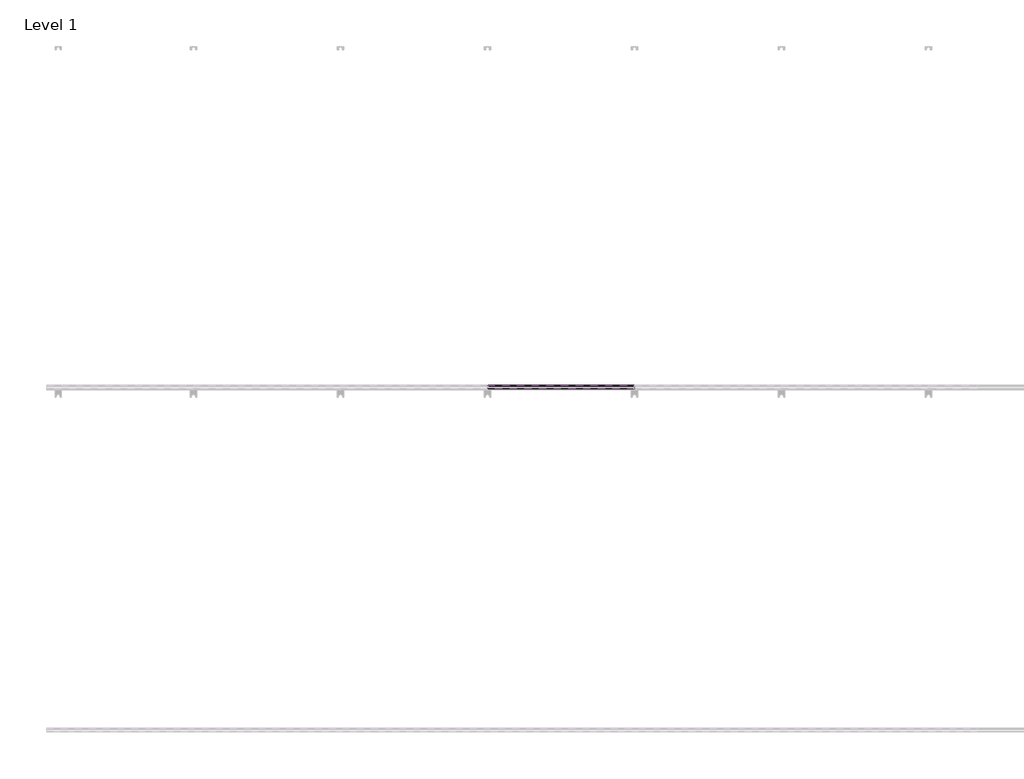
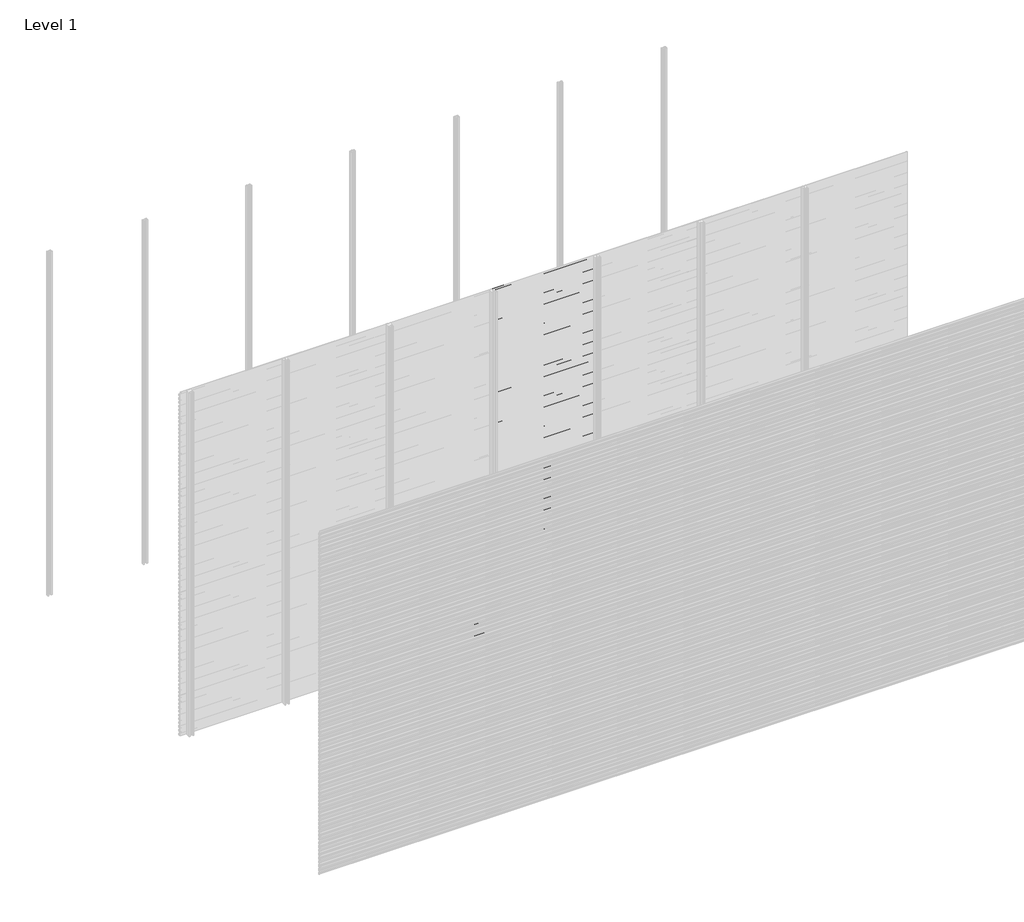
# One storey, part 74 of 96: 76 proxies.
"""IFC4 building model written with IfcOpenShell, lengths in millimetres."""

from ifc_helpers import new_model, si_unit, frame, origin, place, context, project, spatial, polyline, outline, extrude, element, save

model = new_model("IFC4")

# Units and contexts
model_context = context("Model", 3, world=origin())
ifc_project = project(units=[si_unit("LENGTHUNIT", "METRE", prefix="MILLI")], contexts=[model_context])

# Site, building, storey
site = spatial("IfcSite", under=ifc_project)
building = spatial("IfcBuilding", under=site)
storey = spatial("IfcBuildingStorey", under=building, Name="Level 1", Elevation=0.0)

# Proxies
placement = place(None, origin())
element("IfcBuildingElementProxy", 1, Name="Wall Sweeps", at=placement, inside=storey, context=model_context, shape_type="SweptSolid", body=[
    extrude(outline(polyline([(-11977.6, 174.5655033), (-11977.6, 160.2779188), (-11982.4114965, 157.5), (-11982.4114965, 158.7701706), (-11978.85, 160.8264016), (-11978.85, 173.8437382), (-11998.0, 184.9000799), (-11998.0, 199.8), (-11996.75, 199.8), (-11996.75, 185.6217609), (-11977.6, 174.5655033)])), frame((1714.2857143, 0.0, 0.0), z_axis=(1.0, 0.0, 0.0), x_axis=(0.0, 1.0, 0.0)), (0.0, 0.0, 1.0), 857.1428571),
])
element("IfcBuildingElementProxy", 2, Name="Wall Sweeps", at=placement, inside=storey, context=model_context, shape_type="SweptSolid", body=[
    extrude(outline(polyline([(-11977.6, 141.2655033), (-11977.6, 126.9779188), (-11982.4114965, 124.2), (-11982.4114965, 125.4701706), (-11978.85, 127.5264016), (-11978.85, 140.5437382), (-11998.0, 151.6000799), (-11998.0, 166.5), (-11996.75, 166.5), (-11996.75, 152.3217609), (-11977.6, 141.2655033)])), frame((1714.2857143, 0.0, 0.0), z_axis=(1.0, 0.0, 0.0), x_axis=(0.0, 1.0, 0.0)), (0.0, 0.0, 1.0), 857.1428571),
])
element("IfcBuildingElementProxy", 3, Name="Wall Sweeps", at=placement, inside=storey, context=model_context, shape_type="SweptSolid", body=[
    extrude(outline(polyline([(-11977.6, 107.9655033), (-11977.6, 93.6779188), (-11982.4114965, 90.9), (-11982.4114965, 92.1701706), (-11978.85, 94.2264016), (-11978.85, 107.2437382), (-11998.0, 118.3000799), (-11998.0, 133.2), (-11996.75, 133.2), (-11996.75, 119.0217609), (-11977.6, 107.9655033)])), frame((1714.2857143, 0.0, 0.0), z_axis=(1.0, 0.0, 0.0), x_axis=(0.0, 1.0, 0.0)), (0.0, 0.0, 1.0), 857.1428571),
])
element("IfcBuildingElementProxy", 4, Name="Wall Sweeps", at=placement, inside=storey, context=model_context, shape_type="SweptSolid", body=[
    extrude(outline(polyline([(-11977.6, 74.6655033), (-11977.6, 60.3779188), (-11982.4114965, 57.6), (-11982.4114965, 58.8701706), (-11978.85, 60.9264016), (-11978.85, 73.9437382), (-11998.0, 85.0000799), (-11998.0, 99.9), (-11996.75, 99.9), (-11996.75, 85.7217609), (-11977.6, 74.6655033)])), frame((1714.2857143, 0.0, 0.0), z_axis=(1.0, 0.0, 0.0), x_axis=(0.0, 1.0, 0.0)), (0.0, 0.0, 1.0), 857.1428571),
])
element("IfcBuildingElementProxy", 5, Name="Wall Sweeps", at=placement, inside=storey, context=model_context, shape_type="SweptSolid", body=[
    extrude(outline(polyline([(-11977.6, 41.3655033), (-11977.6, 27.0779188), (-11982.4114965, 24.3), (-11982.4114965, 25.5701706), (-11978.85, 27.6264016), (-11978.85, 40.6437382), (-11998.0, 51.7000799), (-11998.0, 66.6), (-11996.75, 66.6), (-11996.75, 52.4217609), (-11977.6, 41.3655033)])), frame((1714.2857143, 0.0, 0.0), z_axis=(1.0, 0.0, 0.0), x_axis=(0.0, 1.0, 0.0)), (0.0, 0.0, 1.0), 857.1428571),
])
element("IfcBuildingElementProxy", 6, Name="Wall Sweeps", at=placement, inside=storey, context=model_context, shape_type="SweptSolid", body=[
    extrude(outline(polyline([(-11977.6, 8.0655033), (-11977.6, -6.2220812), (-11982.4114965, -9.0), (-11982.4114965, -7.7298294), (-11978.85, -5.6735984), (-11978.85, 7.3437382), (-11998.0, 18.4000799), (-11998.0, 33.3), (-11996.75, 33.3), (-11996.75, 19.1217609), (-11977.6, 8.0655033)])), frame((1714.2857143, 0.0, 0.0), z_axis=(1.0, 0.0, 0.0), x_axis=(0.0, 1.0, 0.0)), (0.0, 0.0, 1.0), 857.1428571),
])
element("IfcBuildingElementProxy", 7, Name="Wall Sweeps", at=placement, inside=storey, context=model_context, shape_type="SweptSolid", body=[
    extrude(outline(polyline([(-11977.6, 2971.7655033), (-11977.6, 2957.4779188), (-11982.4114965, 2954.7), (-11982.4114965, 2955.9701706), (-11978.85, 2958.0264016), (-11978.85, 2971.0437382), (-11998.0, 2982.1000799), (-11998.0, 2997.0), (-11996.75, 2997.0), (-11996.75, 2982.8217609), (-11977.6, 2971.7655033)])), frame((2571.4285714, 0.0, 0.0), z_axis=(1.0, 0.0, 0.0), x_axis=(0.0, 1.0, 0.0)), (0.0, 0.0, 1.0), 857.1428571),
])
element("IfcBuildingElementProxy", 8, Name="Wall Sweeps", at=placement, inside=storey, context=model_context, shape_type="SweptSolid", body=[
    extrude(outline(polyline([(-11977.6, 2938.4655033), (-11977.6, 2924.1779188), (-11982.4114965, 2921.4), (-11982.4114965, 2922.6701706), (-11978.85, 2924.7264016), (-11978.85, 2937.7437382), (-11998.0, 2948.8000799), (-11998.0, 2963.7), (-11996.75, 2963.7), (-11996.75, 2949.5217609), (-11977.6, 2938.4655033)])), frame((2571.4285714, 0.0, 0.0), z_axis=(1.0, 0.0, 0.0), x_axis=(0.0, 1.0, 0.0)), (0.0, 0.0, 1.0), 857.1428571),
])
element("IfcBuildingElementProxy", 9, Name="Wall Sweeps", at=placement, inside=storey, context=model_context, shape_type="SweptSolid", body=[
    extrude(outline(polyline([(-11977.6, 2905.1655033), (-11977.6, 2890.8779188), (-11982.4114965, 2888.1), (-11982.4114965, 2889.3701706), (-11978.85, 2891.4264016), (-11978.85, 2904.4437382), (-11998.0, 2915.5000799), (-11998.0, 2930.4), (-11996.75, 2930.4), (-11996.75, 2916.2217609), (-11977.6, 2905.1655033)])), frame((2571.4285714, 0.0, 0.0), z_axis=(1.0, 0.0, 0.0), x_axis=(0.0, 1.0, 0.0)), (0.0, 0.0, 1.0), 857.1428571),
])
element("IfcBuildingElementProxy", 10, Name="Wall Sweeps", at=placement, inside=storey, context=model_context, shape_type="SweptSolid", body=[
    extrude(outline(polyline([(-11977.6, 2871.8655033), (-11977.6, 2857.5779188), (-11982.4114965, 2854.8), (-11982.4114965, 2856.0701706), (-11978.85, 2858.1264016), (-11978.85, 2871.1437382), (-11998.0, 2882.2000799), (-11998.0, 2897.1), (-11996.75, 2897.1), (-11996.75, 2882.9217609), (-11977.6, 2871.8655033)])), frame((2571.4285714, 0.0, 0.0), z_axis=(1.0, 0.0, 0.0), x_axis=(0.0, 1.0, 0.0)), (0.0, 0.0, 1.0), 857.1428571),
])
element("IfcBuildingElementProxy", 11, Name="Wall Sweeps", at=placement, inside=storey, context=model_context, shape_type="SweptSolid", body=[
    extrude(outline(polyline([(-11977.6, 2838.5655033), (-11977.6, 2824.2779188), (-11982.4114965, 2821.5), (-11982.4114965, 2822.7701706), (-11978.85, 2824.8264016), (-11978.85, 2837.8437382), (-11998.0, 2848.9000799), (-11998.0, 2863.8), (-11996.75, 2863.8), (-11996.75, 2849.6217609), (-11977.6, 2838.5655033)])), frame((2571.4285714, 0.0, 0.0), z_axis=(1.0, 0.0, 0.0), x_axis=(0.0, 1.0, 0.0)), (0.0, 0.0, 1.0), 857.1428571),
])
element("IfcBuildingElementProxy", 12, Name="Wall Sweeps", at=placement, inside=storey, context=model_context, shape_type="SweptSolid", body=[
    extrude(outline(polyline([(-11977.6, 2805.2655033), (-11977.6, 2790.9779188), (-11982.4114965, 2788.2), (-11982.4114965, 2789.4701706), (-11978.85, 2791.5264016), (-11978.85, 2804.5437382), (-11998.0, 2815.6000799), (-11998.0, 2830.5), (-11996.75, 2830.5), (-11996.75, 2816.3217609), (-11977.6, 2805.2655033)])), frame((2571.4285714, 0.0, 0.0), z_axis=(1.0, 0.0, 0.0), x_axis=(0.0, 1.0, 0.0)), (0.0, 0.0, 1.0), 857.1428571),
])
element("IfcBuildingElementProxy", 13, Name="Wall Sweeps", at=placement, inside=storey, context=model_context, shape_type="SweptSolid", body=[
    extrude(outline(polyline([(-11977.6, 2771.9655033), (-11977.6, 2757.6779188), (-11982.4114965, 2754.9), (-11982.4114965, 2756.1701706), (-11978.85, 2758.2264016), (-11978.85, 2771.2437382), (-11998.0, 2782.3000799), (-11998.0, 2797.2), (-11996.75, 2797.2), (-11996.75, 2783.0217609), (-11977.6, 2771.9655033)])), frame((2571.4285714, 0.0, 0.0), z_axis=(1.0, 0.0, 0.0), x_axis=(0.0, 1.0, 0.0)), (0.0, 0.0, 1.0), 857.1428571),
])
element("IfcBuildingElementProxy", 14, Name="Wall Sweeps", at=placement, inside=storey, context=model_context, shape_type="SweptSolid", body=[
    extrude(outline(polyline([(-11977.6, 2738.6655033), (-11977.6, 2724.3779188), (-11982.4114965, 2721.6), (-11982.4114965, 2722.8701706), (-11978.85, 2724.9264016), (-11978.85, 2737.9437382), (-11998.0, 2749.0000799), (-11998.0, 2763.9), (-11996.75, 2763.9), (-11996.75, 2749.7217609), (-11977.6, 2738.6655033)])), frame((2571.4285714, 0.0, 0.0), z_axis=(1.0, 0.0, 0.0), x_axis=(0.0, 1.0, 0.0)), (0.0, 0.0, 1.0), 857.1428571),
])
element("IfcBuildingElementProxy", 15, Name="Wall Sweeps", at=placement, inside=storey, context=model_context, shape_type="SweptSolid", body=[
    extrude(outline(polyline([(-11977.6, 2705.3655033), (-11977.6, 2691.0779188), (-11982.4114965, 2688.3), (-11982.4114965, 2689.5701706), (-11978.85, 2691.6264016), (-11978.85, 2704.6437382), (-11998.0, 2715.7000799), (-11998.0, 2730.6), (-11996.75, 2730.6), (-11996.75, 2716.4217609), (-11977.6, 2705.3655033)])), frame((2571.4285714, 0.0, 0.0), z_axis=(1.0, 0.0, 0.0), x_axis=(0.0, 1.0, 0.0)), (0.0, 0.0, 1.0), 857.1428571),
])
element("IfcBuildingElementProxy", 16, Name="Wall Sweeps", at=placement, inside=storey, context=model_context, shape_type="SweptSolid", body=[
    extrude(outline(polyline([(-11977.6, 2672.0655033), (-11977.6, 2657.7779188), (-11982.4114965, 2655.0), (-11982.4114965, 2656.2701706), (-11978.85, 2658.3264016), (-11978.85, 2671.3437382), (-11998.0, 2682.4000799), (-11998.0, 2697.3), (-11996.75, 2697.3), (-11996.75, 2683.1217609), (-11977.6, 2672.0655033)])), frame((2571.4285714, 0.0, 0.0), z_axis=(1.0, 0.0, 0.0), x_axis=(0.0, 1.0, 0.0)), (0.0, 0.0, 1.0), 857.1428571),
])
element("IfcBuildingElementProxy", 17, Name="Wall Sweeps", at=placement, inside=storey, context=model_context, shape_type="SweptSolid", body=[
    extrude(outline(polyline([(-11977.6, 2638.7655033), (-11977.6, 2624.4779188), (-11982.4114965, 2621.7), (-11982.4114965, 2622.9701706), (-11978.85, 2625.0264016), (-11978.85, 2638.0437382), (-11998.0, 2649.1000799), (-11998.0, 2664.0), (-11996.75, 2664.0), (-11996.75, 2649.8217609), (-11977.6, 2638.7655033)])), frame((2571.4285714, 0.0, 0.0), z_axis=(1.0, 0.0, 0.0), x_axis=(0.0, 1.0, 0.0)), (0.0, 0.0, 1.0), 857.1428571),
])
element("IfcBuildingElementProxy", 18, Name="Wall Sweeps", at=placement, inside=storey, context=model_context, shape_type="SweptSolid", body=[
    extrude(outline(polyline([(-11977.6, 2605.4655033), (-11977.6, 2591.1779188), (-11982.4114965, 2588.4), (-11982.4114965, 2589.6701706), (-11978.85, 2591.7264016), (-11978.85, 2604.7437382), (-11998.0, 2615.8000799), (-11998.0, 2630.7), (-11996.75, 2630.7), (-11996.75, 2616.5217609), (-11977.6, 2605.4655033)])), frame((2571.4285714, 0.0, 0.0), z_axis=(1.0, 0.0, 0.0), x_axis=(0.0, 1.0, 0.0)), (0.0, 0.0, 1.0), 857.1428571),
])
element("IfcBuildingElementProxy", 19, Name="Wall Sweeps", at=placement, inside=storey, context=model_context, shape_type="SweptSolid", body=[
    extrude(outline(polyline([(-11977.6, 2572.1655033), (-11977.6, 2557.8779188), (-11982.4114965, 2555.1), (-11982.4114965, 2556.3701706), (-11978.85, 2558.4264016), (-11978.85, 2571.4437382), (-11998.0, 2582.5000799), (-11998.0, 2597.4), (-11996.75, 2597.4), (-11996.75, 2583.2217609), (-11977.6, 2572.1655033)])), frame((2571.4285714, 0.0, 0.0), z_axis=(1.0, 0.0, 0.0), x_axis=(0.0, 1.0, 0.0)), (0.0, 0.0, 1.0), 857.1428571),
])
element("IfcBuildingElementProxy", 20, Name="Wall Sweeps", at=placement, inside=storey, context=model_context, shape_type="SweptSolid", body=[
    extrude(outline(polyline([(-11977.6, 2538.8655033), (-11977.6, 2524.5779188), (-11982.4114965, 2521.8), (-11982.4114965, 2523.0701706), (-11978.85, 2525.1264016), (-11978.85, 2538.1437382), (-11998.0, 2549.2000799), (-11998.0, 2564.1), (-11996.75, 2564.1), (-11996.75, 2549.9217609), (-11977.6, 2538.8655033)])), frame((2571.4285714, 0.0, 0.0), z_axis=(1.0, 0.0, 0.0), x_axis=(0.0, 1.0, 0.0)), (0.0, 0.0, 1.0), 857.1428571),
])
element("IfcBuildingElementProxy", 21, Name="Wall Sweeps", at=placement, inside=storey, context=model_context, shape_type="SweptSolid", body=[
    extrude(outline(polyline([(-11977.6, 2505.5655033), (-11977.6, 2491.2779188), (-11982.4114965, 2488.5), (-11982.4114965, 2489.7701706), (-11978.85, 2491.8264016), (-11978.85, 2504.8437382), (-11998.0, 2515.9000799), (-11998.0, 2530.8), (-11996.75, 2530.8), (-11996.75, 2516.6217609), (-11977.6, 2505.5655033)])), frame((2571.4285714, 0.0, 0.0), z_axis=(1.0, 0.0, 0.0), x_axis=(0.0, 1.0, 0.0)), (0.0, 0.0, 1.0), 857.1428571),
])
element("IfcBuildingElementProxy", 22, Name="Wall Sweeps", at=placement, inside=storey, context=model_context, shape_type="SweptSolid", body=[
    extrude(outline(polyline([(-11977.6, 2472.2655033), (-11977.6, 2457.9779188), (-11982.4114965, 2455.2), (-11982.4114965, 2456.4701706), (-11978.85, 2458.5264016), (-11978.85, 2471.5437382), (-11998.0, 2482.6000799), (-11998.0, 2497.5), (-11996.75, 2497.5), (-11996.75, 2483.3217609), (-11977.6, 2472.2655033)])), frame((2571.4285714, 0.0, 0.0), z_axis=(1.0, 0.0, 0.0), x_axis=(0.0, 1.0, 0.0)), (0.0, 0.0, 1.0), 857.1428571),
])
element("IfcBuildingElementProxy", 23, Name="Wall Sweeps", at=placement, inside=storey, context=model_context, shape_type="SweptSolid", body=[
    extrude(outline(polyline([(-11977.6, 2438.9655033), (-11977.6, 2424.6779188), (-11982.4114965, 2421.9), (-11982.4114965, 2423.1701706), (-11978.85, 2425.2264016), (-11978.85, 2438.2437382), (-11998.0, 2449.3000799), (-11998.0, 2464.2), (-11996.75, 2464.2), (-11996.75, 2450.0217609), (-11977.6, 2438.9655033)])), frame((2571.4285714, 0.0, 0.0), z_axis=(1.0, 0.0, 0.0), x_axis=(0.0, 1.0, 0.0)), (0.0, 0.0, 1.0), 857.1428571),
])
element("IfcBuildingElementProxy", 24, Name="Wall Sweeps", at=placement, inside=storey, context=model_context, shape_type="SweptSolid", body=[
    extrude(outline(polyline([(-11977.6, 2405.6655033), (-11977.6, 2391.3779188), (-11982.4114965, 2388.6), (-11982.4114965, 2389.8701706), (-11978.85, 2391.9264016), (-11978.85, 2404.9437382), (-11998.0, 2416.0000799), (-11998.0, 2430.9), (-11996.75, 2430.9), (-11996.75, 2416.7217609), (-11977.6, 2405.6655033)])), frame((2571.4285714, 0.0, 0.0), z_axis=(1.0, 0.0, 0.0), x_axis=(0.0, 1.0, 0.0)), (0.0, 0.0, 1.0), 857.1428571),
])
element("IfcBuildingElementProxy", 25, Name="Wall Sweeps", at=placement, inside=storey, context=model_context, shape_type="SweptSolid", body=[
    extrude(outline(polyline([(-11977.6, 2372.3655033), (-11977.6, 2358.0779188), (-11982.4114965, 2355.3), (-11982.4114965, 2356.5701706), (-11978.85, 2358.6264016), (-11978.85, 2371.6437382), (-11998.0, 2382.7000799), (-11998.0, 2397.6), (-11996.75, 2397.6), (-11996.75, 2383.4217609), (-11977.6, 2372.3655033)])), frame((2571.4285714, 0.0, 0.0), z_axis=(1.0, 0.0, 0.0), x_axis=(0.0, 1.0, 0.0)), (0.0, 0.0, 1.0), 857.1428571),
])
element("IfcBuildingElementProxy", 26, Name="Wall Sweeps", at=placement, inside=storey, context=model_context, shape_type="SweptSolid", body=[
    extrude(outline(polyline([(-11977.6, 2339.0655033), (-11977.6, 2324.7779188), (-11982.4114965, 2322.0), (-11982.4114965, 2323.2701706), (-11978.85, 2325.3264016), (-11978.85, 2338.3437382), (-11998.0, 2349.4000799), (-11998.0, 2364.3), (-11996.75, 2364.3), (-11996.75, 2350.1217609), (-11977.6, 2339.0655033)])), frame((2571.4285714, 0.0, 0.0), z_axis=(1.0, 0.0, 0.0), x_axis=(0.0, 1.0, 0.0)), (0.0, 0.0, 1.0), 857.1428571),
])
element("IfcBuildingElementProxy", 27, Name="Wall Sweeps", at=placement, inside=storey, context=model_context, shape_type="SweptSolid", body=[
    extrude(outline(polyline([(-11977.6, 2305.7655033), (-11977.6, 2291.4779188), (-11982.4114965, 2288.7), (-11982.4114965, 2289.9701706), (-11978.85, 2292.0264016), (-11978.85, 2305.0437382), (-11998.0, 2316.1000799), (-11998.0, 2331.0), (-11996.75, 2331.0), (-11996.75, 2316.8217609), (-11977.6, 2305.7655033)])), frame((2571.4285714, 0.0, 0.0), z_axis=(1.0, 0.0, 0.0), x_axis=(0.0, 1.0, 0.0)), (0.0, 0.0, 1.0), 857.1428571),
])
element("IfcBuildingElementProxy", 28, Name="Wall Sweeps", at=placement, inside=storey, context=model_context, shape_type="SweptSolid", body=[
    extrude(outline(polyline([(-11977.6, 2272.4655033), (-11977.6, 2258.1779188), (-11982.4114965, 2255.4), (-11982.4114965, 2256.6701706), (-11978.85, 2258.7264016), (-11978.85, 2271.7437382), (-11998.0, 2282.8000799), (-11998.0, 2297.7), (-11996.75, 2297.7), (-11996.75, 2283.5217609), (-11977.6, 2272.4655033)])), frame((2571.4285714, 0.0, 0.0), z_axis=(1.0, 0.0, 0.0), x_axis=(0.0, 1.0, 0.0)), (0.0, 0.0, 1.0), 857.1428571),
])
element("IfcBuildingElementProxy", 29, Name="Wall Sweeps", at=placement, inside=storey, context=model_context, shape_type="SweptSolid", body=[
    extrude(outline(polyline([(-11977.6, 2239.1655033), (-11977.6, 2224.8779188), (-11982.4114965, 2222.1), (-11982.4114965, 2223.3701706), (-11978.85, 2225.4264016), (-11978.85, 2238.4437382), (-11998.0, 2249.5000799), (-11998.0, 2264.4), (-11996.75, 2264.4), (-11996.75, 2250.2217609), (-11977.6, 2239.1655033)])), frame((2571.4285714, 0.0, 0.0), z_axis=(1.0, 0.0, 0.0), x_axis=(0.0, 1.0, 0.0)), (0.0, 0.0, 1.0), 857.1428571),
])
element("IfcBuildingElementProxy", 30, Name="Wall Sweeps", at=placement, inside=storey, context=model_context, shape_type="SweptSolid", body=[
    extrude(outline(polyline([(-11977.6, 2205.8655033), (-11977.6, 2191.5779188), (-11982.4114965, 2188.8), (-11982.4114965, 2190.0701706), (-11978.85, 2192.1264016), (-11978.85, 2205.1437382), (-11998.0, 2216.2000799), (-11998.0, 2231.1), (-11996.75, 2231.1), (-11996.75, 2216.9217609), (-11977.6, 2205.8655033)])), frame((2571.4285714, 0.0, 0.0), z_axis=(1.0, 0.0, 0.0), x_axis=(0.0, 1.0, 0.0)), (0.0, 0.0, 1.0), 857.1428571),
])
element("IfcBuildingElementProxy", 31, Name="Wall Sweeps", at=placement, inside=storey, context=model_context, shape_type="SweptSolid", body=[
    extrude(outline(polyline([(-11977.6, 2172.5655033), (-11977.6, 2158.2779188), (-11982.4114965, 2155.5), (-11982.4114965, 2156.7701706), (-11978.85, 2158.8264016), (-11978.85, 2171.8437382), (-11998.0, 2182.9000799), (-11998.0, 2197.8), (-11996.75, 2197.8), (-11996.75, 2183.6217609), (-11977.6, 2172.5655033)])), frame((2571.4285714, 0.0, 0.0), z_axis=(1.0, 0.0, 0.0), x_axis=(0.0, 1.0, 0.0)), (0.0, 0.0, 1.0), 857.1428571),
])
element("IfcBuildingElementProxy", 32, Name="Wall Sweeps", at=placement, inside=storey, context=model_context, shape_type="SweptSolid", body=[
    extrude(outline(polyline([(-11977.6, 2139.2655033), (-11977.6, 2124.9779188), (-11982.4114965, 2122.2), (-11982.4114965, 2123.4701706), (-11978.85, 2125.5264016), (-11978.85, 2138.5437382), (-11998.0, 2149.6000799), (-11998.0, 2164.5), (-11996.75, 2164.5), (-11996.75, 2150.3217609), (-11977.6, 2139.2655033)])), frame((2571.4285714, 0.0, 0.0), z_axis=(1.0, 0.0, 0.0), x_axis=(0.0, 1.0, 0.0)), (0.0, 0.0, 1.0), 857.1428571),
])
element("IfcBuildingElementProxy", 33, Name="Wall Sweeps", at=placement, inside=storey, context=model_context, shape_type="SweptSolid", body=[
    extrude(outline(polyline([(-11977.6, 2105.9655033), (-11977.6, 2091.6779188), (-11982.4114965, 2088.9), (-11982.4114965, 2090.1701706), (-11978.85, 2092.2264016), (-11978.85, 2105.2437382), (-11998.0, 2116.3000799), (-11998.0, 2131.2), (-11996.75, 2131.2), (-11996.75, 2117.0217609), (-11977.6, 2105.9655033)])), frame((2571.4285714, 0.0, 0.0), z_axis=(1.0, 0.0, 0.0), x_axis=(0.0, 1.0, 0.0)), (0.0, 0.0, 1.0), 857.1428571),
])
element("IfcBuildingElementProxy", 34, Name="Wall Sweeps", at=placement, inside=storey, context=model_context, shape_type="SweptSolid", body=[
    extrude(outline(polyline([(-11977.6, 2072.6655033), (-11977.6, 2058.3779188), (-11982.4114965, 2055.6), (-11982.4114965, 2056.8701706), (-11978.85, 2058.9264016), (-11978.85, 2071.9437382), (-11998.0, 2083.0000799), (-11998.0, 2097.9), (-11996.75, 2097.9), (-11996.75, 2083.7217609), (-11977.6, 2072.6655033)])), frame((2571.4285714, 0.0, 0.0), z_axis=(1.0, 0.0, 0.0), x_axis=(0.0, 1.0, 0.0)), (0.0, 0.0, 1.0), 857.1428571),
])
element("IfcBuildingElementProxy", 35, Name="Wall Sweeps", at=placement, inside=storey, context=model_context, shape_type="SweptSolid", body=[
    extrude(outline(polyline([(-11977.6, 2039.3655033), (-11977.6, 2025.0779188), (-11982.4114965, 2022.3), (-11982.4114965, 2023.5701706), (-11978.85, 2025.6264016), (-11978.85, 2038.6437382), (-11998.0, 2049.7000799), (-11998.0, 2064.6), (-11996.75, 2064.6), (-11996.75, 2050.4217609), (-11977.6, 2039.3655033)])), frame((2571.4285714, 0.0, 0.0), z_axis=(1.0, 0.0, 0.0), x_axis=(0.0, 1.0, 0.0)), (0.0, 0.0, 1.0), 857.1428571),
])
element("IfcBuildingElementProxy", 36, Name="Wall Sweeps", at=placement, inside=storey, context=model_context, shape_type="SweptSolid", body=[
    extrude(outline(polyline([(-11977.6, 2006.0655033), (-11977.6, 1991.7779188), (-11982.4114965, 1989.0), (-11982.4114965, 1990.2701706), (-11978.85, 1992.3264016), (-11978.85, 2005.3437382), (-11998.0, 2016.4000799), (-11998.0, 2031.3), (-11996.75, 2031.3), (-11996.75, 2017.1217609), (-11977.6, 2006.0655033)])), frame((2571.4285714, 0.0, 0.0), z_axis=(1.0, 0.0, 0.0), x_axis=(0.0, 1.0, 0.0)), (0.0, 0.0, 1.0), 857.1428571),
])
element("IfcBuildingElementProxy", 37, Name="Wall Sweeps", at=placement, inside=storey, context=model_context, shape_type="SweptSolid", body=[
    extrude(outline(polyline([(-11977.6, 1972.7655033), (-11977.6, 1958.4779188), (-11982.4114965, 1955.7), (-11982.4114965, 1956.9701706), (-11978.85, 1959.0264016), (-11978.85, 1972.0437382), (-11998.0, 1983.1000799), (-11998.0, 1998.0), (-11996.75, 1998.0), (-11996.75, 1983.8217609), (-11977.6, 1972.7655033)])), frame((2571.4285714, 0.0, 0.0), z_axis=(1.0, 0.0, 0.0), x_axis=(0.0, 1.0, 0.0)), (0.0, 0.0, 1.0), 857.1428571),
])
element("IfcBuildingElementProxy", 38, Name="Wall Sweeps", at=placement, inside=storey, context=model_context, shape_type="SweptSolid", body=[
    extrude(outline(polyline([(-11977.6, 1939.4655033), (-11977.6, 1925.1779188), (-11982.4114965, 1922.4), (-11982.4114965, 1923.6701706), (-11978.85, 1925.7264016), (-11978.85, 1938.7437382), (-11998.0, 1949.8000799), (-11998.0, 1964.7), (-11996.75, 1964.7), (-11996.75, 1950.5217609), (-11977.6, 1939.4655033)])), frame((2571.4285714, 0.0, 0.0), z_axis=(1.0, 0.0, 0.0), x_axis=(0.0, 1.0, 0.0)), (0.0, 0.0, 1.0), 857.1428571),
])
element("IfcBuildingElementProxy", 39, Name="Wall Sweeps", at=placement, inside=storey, context=model_context, shape_type="SweptSolid", body=[
    extrude(outline(polyline([(-11977.6, 1906.1655033), (-11977.6, 1891.8779188), (-11982.4114965, 1889.1), (-11982.4114965, 1890.3701706), (-11978.85, 1892.4264016), (-11978.85, 1905.4437382), (-11998.0, 1916.5000799), (-11998.0, 1931.4), (-11996.75, 1931.4), (-11996.75, 1917.2217609), (-11977.6, 1906.1655033)])), frame((2571.4285714, 0.0, 0.0), z_axis=(1.0, 0.0, 0.0), x_axis=(0.0, 1.0, 0.0)), (0.0, 0.0, 1.0), 857.1428571),
])
element("IfcBuildingElementProxy", 40, Name="Wall Sweeps", at=placement, inside=storey, context=model_context, shape_type="SweptSolid", body=[
    extrude(outline(polyline([(-11977.6, 1872.8655033), (-11977.6, 1858.5779188), (-11982.4114965, 1855.8), (-11982.4114965, 1857.0701706), (-11978.85, 1859.1264016), (-11978.85, 1872.1437382), (-11998.0, 1883.2000799), (-11998.0, 1898.1), (-11996.75, 1898.1), (-11996.75, 1883.9217609), (-11977.6, 1872.8655033)])), frame((2571.4285714, 0.0, 0.0), z_axis=(1.0, 0.0, 0.0), x_axis=(0.0, 1.0, 0.0)), (0.0, 0.0, 1.0), 857.1428571),
])
element("IfcBuildingElementProxy", 41, Name="Wall Sweeps", at=placement, inside=storey, context=model_context, shape_type="SweptSolid", body=[
    extrude(outline(polyline([(-11977.6, 1839.5655033), (-11977.6, 1825.2779188), (-11982.4114965, 1822.5), (-11982.4114965, 1823.7701706), (-11978.85, 1825.8264016), (-11978.85, 1838.8437382), (-11998.0, 1849.9000799), (-11998.0, 1864.8), (-11996.75, 1864.8), (-11996.75, 1850.6217609), (-11977.6, 1839.5655033)])), frame((2571.4285714, 0.0, 0.0), z_axis=(1.0, 0.0, 0.0), x_axis=(0.0, 1.0, 0.0)), (0.0, 0.0, 1.0), 857.1428571),
])
element("IfcBuildingElementProxy", 42, Name="Wall Sweeps", at=placement, inside=storey, context=model_context, shape_type="SweptSolid", body=[
    extrude(outline(polyline([(-11977.6, 1806.2655033), (-11977.6, 1791.9779188), (-11982.4114965, 1789.2), (-11982.4114965, 1790.4701706), (-11978.85, 1792.5264016), (-11978.85, 1805.5437382), (-11998.0, 1816.6000799), (-11998.0, 1831.5), (-11996.75, 1831.5), (-11996.75, 1817.3217609), (-11977.6, 1806.2655033)])), frame((2571.4285714, 0.0, 0.0), z_axis=(1.0, 0.0, 0.0), x_axis=(0.0, 1.0, 0.0)), (0.0, 0.0, 1.0), 857.1428571),
])
element("IfcBuildingElementProxy", 43, Name="Wall Sweeps", at=placement, inside=storey, context=model_context, shape_type="SweptSolid", body=[
    extrude(outline(polyline([(-11977.6, 1772.9655033), (-11977.6, 1758.6779188), (-11982.4114965, 1755.9), (-11982.4114965, 1757.1701706), (-11978.85, 1759.2264016), (-11978.85, 1772.2437382), (-11998.0, 1783.3000799), (-11998.0, 1798.2), (-11996.75, 1798.2), (-11996.75, 1784.0217609), (-11977.6, 1772.9655033)])), frame((2571.4285714, 0.0, 0.0), z_axis=(1.0, 0.0, 0.0), x_axis=(0.0, 1.0, 0.0)), (0.0, 0.0, 1.0), 857.1428571),
])
element("IfcBuildingElementProxy", 44, Name="Wall Sweeps", at=placement, inside=storey, context=model_context, shape_type="SweptSolid", body=[
    extrude(outline(polyline([(-11977.6, 1739.6655033), (-11977.6, 1725.3779188), (-11982.4114965, 1722.6), (-11982.4114965, 1723.8701706), (-11978.85, 1725.9264016), (-11978.85, 1738.9437382), (-11998.0, 1750.0000799), (-11998.0, 1764.9), (-11996.75, 1764.9), (-11996.75, 1750.7217609), (-11977.6, 1739.6655033)])), frame((2571.4285714, 0.0, 0.0), z_axis=(1.0, 0.0, 0.0), x_axis=(0.0, 1.0, 0.0)), (0.0, 0.0, 1.0), 857.1428571),
])
element("IfcBuildingElementProxy", 45, Name="Wall Sweeps", at=placement, inside=storey, context=model_context, shape_type="SweptSolid", body=[
    extrude(outline(polyline([(-11977.6, 1706.3655033), (-11977.6, 1692.0779188), (-11982.4114965, 1689.3), (-11982.4114965, 1690.5701706), (-11978.85, 1692.6264016), (-11978.85, 1705.6437382), (-11998.0, 1716.7000799), (-11998.0, 1731.6), (-11996.75, 1731.6), (-11996.75, 1717.4217609), (-11977.6, 1706.3655033)])), frame((2571.4285714, 0.0, 0.0), z_axis=(1.0, 0.0, 0.0), x_axis=(0.0, 1.0, 0.0)), (0.0, 0.0, 1.0), 857.1428571),
])
element("IfcBuildingElementProxy", 46, Name="Wall Sweeps", at=placement, inside=storey, context=model_context, shape_type="SweptSolid", body=[
    extrude(outline(polyline([(-11977.6, 1673.0655033), (-11977.6, 1658.7779188), (-11982.4114965, 1656.0), (-11982.4114965, 1657.2701706), (-11978.85, 1659.3264016), (-11978.85, 1672.3437382), (-11998.0, 1683.4000799), (-11998.0, 1698.3), (-11996.75, 1698.3), (-11996.75, 1684.1217609), (-11977.6, 1673.0655033)])), frame((2571.4285714, 0.0, 0.0), z_axis=(1.0, 0.0, 0.0), x_axis=(0.0, 1.0, 0.0)), (0.0, 0.0, 1.0), 857.1428571),
])
element("IfcBuildingElementProxy", 47, Name="Wall Sweeps", at=placement, inside=storey, context=model_context, shape_type="SweptSolid", body=[
    extrude(outline(polyline([(-11977.6, 1639.7655033), (-11977.6, 1625.4779188), (-11982.4114965, 1622.7), (-11982.4114965, 1623.9701706), (-11978.85, 1626.0264016), (-11978.85, 1639.0437382), (-11998.0, 1650.1000799), (-11998.0, 1665.0), (-11996.75, 1665.0), (-11996.75, 1650.8217609), (-11977.6, 1639.7655033)])), frame((2571.4285714, 0.0, 0.0), z_axis=(1.0, 0.0, 0.0), x_axis=(0.0, 1.0, 0.0)), (0.0, 0.0, 1.0), 857.1428571),
])
element("IfcBuildingElementProxy", 48, Name="Wall Sweeps", at=placement, inside=storey, context=model_context, shape_type="SweptSolid", body=[
    extrude(outline(polyline([(-11977.6, 1606.4655033), (-11977.6, 1592.1779188), (-11982.4114965, 1589.4), (-11982.4114965, 1590.6701706), (-11978.85, 1592.7264016), (-11978.85, 1605.7437382), (-11998.0, 1616.8000799), (-11998.0, 1631.7), (-11996.75, 1631.7), (-11996.75, 1617.5217609), (-11977.6, 1606.4655033)])), frame((2571.4285714, 0.0, 0.0), z_axis=(1.0, 0.0, 0.0), x_axis=(0.0, 1.0, 0.0)), (0.0, 0.0, 1.0), 857.1428571),
])
element("IfcBuildingElementProxy", 49, Name="Wall Sweeps", at=placement, inside=storey, context=model_context, shape_type="SweptSolid", body=[
    extrude(outline(polyline([(-11977.6, 1573.1655033), (-11977.6, 1558.8779188), (-11982.4114965, 1556.1), (-11982.4114965, 1557.3701706), (-11978.85, 1559.4264016), (-11978.85, 1572.4437382), (-11998.0, 1583.5000799), (-11998.0, 1598.4), (-11996.75, 1598.4), (-11996.75, 1584.2217609), (-11977.6, 1573.1655033)])), frame((2571.4285714, 0.0, 0.0), z_axis=(1.0, 0.0, 0.0), x_axis=(0.0, 1.0, 0.0)), (0.0, 0.0, 1.0), 857.1428571),
])
element("IfcBuildingElementProxy", 50, Name="Wall Sweeps", at=placement, inside=storey, context=model_context, shape_type="SweptSolid", body=[
    extrude(outline(polyline([(-11977.6, 1539.8655033), (-11977.6, 1525.5779188), (-11982.4114965, 1522.8), (-11982.4114965, 1524.0701706), (-11978.85, 1526.1264016), (-11978.85, 1539.1437382), (-11998.0, 1550.2000799), (-11998.0, 1565.1), (-11996.75, 1565.1), (-11996.75, 1550.9217609), (-11977.6, 1539.8655033)])), frame((2571.4285714, 0.0, 0.0), z_axis=(1.0, 0.0, 0.0), x_axis=(0.0, 1.0, 0.0)), (0.0, 0.0, 1.0), 857.1428571),
])
element("IfcBuildingElementProxy", 51, Name="Wall Sweeps", at=placement, inside=storey, context=model_context, shape_type="SweptSolid", body=[
    extrude(outline(polyline([(-11977.6, 1506.5655033), (-11977.6, 1492.2779188), (-11982.4114965, 1489.5), (-11982.4114965, 1490.7701706), (-11978.85, 1492.8264016), (-11978.85, 1505.8437382), (-11998.0, 1516.9000799), (-11998.0, 1531.8), (-11996.75, 1531.8), (-11996.75, 1517.6217609), (-11977.6, 1506.5655033)])), frame((2571.4285714, 0.0, 0.0), z_axis=(1.0, 0.0, 0.0), x_axis=(0.0, 1.0, 0.0)), (0.0, 0.0, 1.0), 857.1428571),
])
element("IfcBuildingElementProxy", 52, Name="Wall Sweeps", at=placement, inside=storey, context=model_context, shape_type="SweptSolid", body=[
    extrude(outline(polyline([(-11977.6, 1473.2655033), (-11977.6, 1458.9779188), (-11982.4114965, 1456.2), (-11982.4114965, 1457.4701706), (-11978.85, 1459.5264016), (-11978.85, 1472.5437382), (-11998.0, 1483.6000799), (-11998.0, 1498.5), (-11996.75, 1498.5), (-11996.75, 1484.3217609), (-11977.6, 1473.2655033)])), frame((2571.4285714, 0.0, 0.0), z_axis=(1.0, 0.0, 0.0), x_axis=(0.0, 1.0, 0.0)), (0.0, 0.0, 1.0), 857.1428571),
])
element("IfcBuildingElementProxy", 53, Name="Wall Sweeps", at=placement, inside=storey, context=model_context, shape_type="SweptSolid", body=[
    extrude(outline(polyline([(-11977.6, 1439.9655033), (-11977.6, 1425.6779188), (-11982.4114965, 1422.9), (-11982.4114965, 1424.1701706), (-11978.85, 1426.2264016), (-11978.85, 1439.2437382), (-11998.0, 1450.3000799), (-11998.0, 1465.2), (-11996.75, 1465.2), (-11996.75, 1451.0217609), (-11977.6, 1439.9655033)])), frame((2571.4285714, 0.0, 0.0), z_axis=(1.0, 0.0, 0.0), x_axis=(0.0, 1.0, 0.0)), (0.0, 0.0, 1.0), 857.1428571),
])
element("IfcBuildingElementProxy", 54, Name="Wall Sweeps", at=placement, inside=storey, context=model_context, shape_type="SweptSolid", body=[
    extrude(outline(polyline([(-11977.6, 1406.6655033), (-11977.6, 1392.3779188), (-11982.4114965, 1389.6), (-11982.4114965, 1390.8701706), (-11978.85, 1392.9264016), (-11978.85, 1405.9437382), (-11998.0, 1417.0000799), (-11998.0, 1431.9), (-11996.75, 1431.9), (-11996.75, 1417.7217609), (-11977.6, 1406.6655033)])), frame((2571.4285714, 0.0, 0.0), z_axis=(1.0, 0.0, 0.0), x_axis=(0.0, 1.0, 0.0)), (0.0, 0.0, 1.0), 857.1428571),
])
element("IfcBuildingElementProxy", 55, Name="Wall Sweeps", at=placement, inside=storey, context=model_context, shape_type="SweptSolid", body=[
    extrude(outline(polyline([(-11977.6, 1373.3655033), (-11977.6, 1359.0779188), (-11982.4114965, 1356.3), (-11982.4114965, 1357.5701706), (-11978.85, 1359.6264016), (-11978.85, 1372.6437382), (-11998.0, 1383.7000799), (-11998.0, 1398.6), (-11996.75, 1398.6), (-11996.75, 1384.4217609), (-11977.6, 1373.3655033)])), frame((2571.4285714, 0.0, 0.0), z_axis=(1.0, 0.0, 0.0), x_axis=(0.0, 1.0, 0.0)), (0.0, 0.0, 1.0), 857.1428571),
])
element("IfcBuildingElementProxy", 56, Name="Wall Sweeps", at=placement, inside=storey, context=model_context, shape_type="SweptSolid", body=[
    extrude(outline(polyline([(-11977.6, 1340.0655033), (-11977.6, 1325.7779188), (-11982.4114965, 1323.0), (-11982.4114965, 1324.2701706), (-11978.85, 1326.3264016), (-11978.85, 1339.3437382), (-11998.0, 1350.4000799), (-11998.0, 1365.3), (-11996.75, 1365.3), (-11996.75, 1351.1217609), (-11977.6, 1340.0655033)])), frame((2571.4285714, 0.0, 0.0), z_axis=(1.0, 0.0, 0.0), x_axis=(0.0, 1.0, 0.0)), (0.0, 0.0, 1.0), 857.1428571),
])
element("IfcBuildingElementProxy", 57, Name="Wall Sweeps", at=placement, inside=storey, context=model_context, shape_type="SweptSolid", body=[
    extrude(outline(polyline([(-11977.6, 1306.7655033), (-11977.6, 1292.4779188), (-11982.4114965, 1289.7), (-11982.4114965, 1290.9701706), (-11978.85, 1293.0264016), (-11978.85, 1306.0437382), (-11998.0, 1317.1000799), (-11998.0, 1332.0), (-11996.75, 1332.0), (-11996.75, 1317.8217609), (-11977.6, 1306.7655033)])), frame((2571.4285714, 0.0, 0.0), z_axis=(1.0, 0.0, 0.0), x_axis=(0.0, 1.0, 0.0)), (0.0, 0.0, 1.0), 857.1428571),
])
element("IfcBuildingElementProxy", 58, Name="Wall Sweeps", at=placement, inside=storey, context=model_context, shape_type="SweptSolid", body=[
    extrude(outline(polyline([(-11977.6, 1273.4655033), (-11977.6, 1259.1779188), (-11982.4114965, 1256.4), (-11982.4114965, 1257.6701706), (-11978.85, 1259.7264016), (-11978.85, 1272.7437382), (-11998.0, 1283.8000799), (-11998.0, 1298.7), (-11996.75, 1298.7), (-11996.75, 1284.5217609), (-11977.6, 1273.4655033)])), frame((2571.4285714, 0.0, 0.0), z_axis=(1.0, 0.0, 0.0), x_axis=(0.0, 1.0, 0.0)), (0.0, 0.0, 1.0), 857.1428571),
])
element("IfcBuildingElementProxy", 59, Name="Wall Sweeps", at=placement, inside=storey, context=model_context, shape_type="SweptSolid", body=[
    extrude(outline(polyline([(-11977.6, 1240.1655033), (-11977.6, 1225.8779188), (-11982.4114965, 1223.1), (-11982.4114965, 1224.3701706), (-11978.85, 1226.4264016), (-11978.85, 1239.4437382), (-11998.0, 1250.5000799), (-11998.0, 1265.4), (-11996.75, 1265.4), (-11996.75, 1251.2217609), (-11977.6, 1240.1655033)])), frame((2571.4285714, 0.0, 0.0), z_axis=(1.0, 0.0, 0.0), x_axis=(0.0, 1.0, 0.0)), (0.0, 0.0, 1.0), 857.1428571),
])
element("IfcBuildingElementProxy", 60, Name="Wall Sweeps", at=placement, inside=storey, context=model_context, shape_type="SweptSolid", body=[
    extrude(outline(polyline([(-11977.6, 1206.8655033), (-11977.6, 1192.5779188), (-11982.4114965, 1189.8), (-11982.4114965, 1191.0701706), (-11978.85, 1193.1264016), (-11978.85, 1206.1437382), (-11998.0, 1217.2000799), (-11998.0, 1232.1), (-11996.75, 1232.1), (-11996.75, 1217.9217609), (-11977.6, 1206.8655033)])), frame((2571.4285714, 0.0, 0.0), z_axis=(1.0, 0.0, 0.0), x_axis=(0.0, 1.0, 0.0)), (0.0, 0.0, 1.0), 857.1428571),
])
element("IfcBuildingElementProxy", 61, Name="Wall Sweeps", at=placement, inside=storey, context=model_context, shape_type="SweptSolid", body=[
    extrude(outline(polyline([(-11977.6, 1173.5655033), (-11977.6, 1159.2779188), (-11982.4114965, 1156.5), (-11982.4114965, 1157.7701706), (-11978.85, 1159.8264016), (-11978.85, 1172.8437382), (-11998.0, 1183.9000799), (-11998.0, 1198.8), (-11996.75, 1198.8), (-11996.75, 1184.6217609), (-11977.6, 1173.5655033)])), frame((2571.4285714, 0.0, 0.0), z_axis=(1.0, 0.0, 0.0), x_axis=(0.0, 1.0, 0.0)), (0.0, 0.0, 1.0), 857.1428571),
])
element("IfcBuildingElementProxy", 62, Name="Wall Sweeps", at=placement, inside=storey, context=model_context, shape_type="SweptSolid", body=[
    extrude(outline(polyline([(-11977.6, 1140.2655033), (-11977.6, 1125.9779188), (-11982.4114965, 1123.2), (-11982.4114965, 1124.4701706), (-11978.85, 1126.5264016), (-11978.85, 1139.5437382), (-11998.0, 1150.6000799), (-11998.0, 1165.5), (-11996.75, 1165.5), (-11996.75, 1151.3217609), (-11977.6, 1140.2655033)])), frame((2571.4285714, 0.0, 0.0), z_axis=(1.0, 0.0, 0.0), x_axis=(0.0, 1.0, 0.0)), (0.0, 0.0, 1.0), 857.1428571),
])
element("IfcBuildingElementProxy", 63, Name="Wall Sweeps", at=placement, inside=storey, context=model_context, shape_type="SweptSolid", body=[
    extrude(outline(polyline([(-11977.6, 1106.9655033), (-11977.6, 1092.6779188), (-11982.4114965, 1089.9), (-11982.4114965, 1091.1701706), (-11978.85, 1093.2264016), (-11978.85, 1106.2437382), (-11998.0, 1117.3000799), (-11998.0, 1132.2), (-11996.75, 1132.2), (-11996.75, 1118.0217609), (-11977.6, 1106.9655033)])), frame((2571.4285714, 0.0, 0.0), z_axis=(1.0, 0.0, 0.0), x_axis=(0.0, 1.0, 0.0)), (0.0, 0.0, 1.0), 857.1428571),
])
element("IfcBuildingElementProxy", 64, Name="Wall Sweeps", at=placement, inside=storey, context=model_context, shape_type="SweptSolid", body=[
    extrude(outline(polyline([(-11977.6, 1073.6655033), (-11977.6, 1059.3779188), (-11982.4114965, 1056.6), (-11982.4114965, 1057.8701706), (-11978.85, 1059.9264016), (-11978.85, 1072.9437382), (-11998.0, 1084.0000799), (-11998.0, 1098.9), (-11996.75, 1098.9), (-11996.75, 1084.7217609), (-11977.6, 1073.6655033)])), frame((2571.4285714, 0.0, 0.0), z_axis=(1.0, 0.0, 0.0), x_axis=(0.0, 1.0, 0.0)), (0.0, 0.0, 1.0), 857.1428571),
])
element("IfcBuildingElementProxy", 65, Name="Wall Sweeps", at=placement, inside=storey, context=model_context, shape_type="SweptSolid", body=[
    extrude(outline(polyline([(-11977.6, 1040.3655033), (-11977.6, 1026.0779188), (-11982.4114965, 1023.3), (-11982.4114965, 1024.5701706), (-11978.85, 1026.6264016), (-11978.85, 1039.6437382), (-11998.0, 1050.7000799), (-11998.0, 1065.6), (-11996.75, 1065.6), (-11996.75, 1051.4217609), (-11977.6, 1040.3655033)])), frame((2571.4285714, 0.0, 0.0), z_axis=(1.0, 0.0, 0.0), x_axis=(0.0, 1.0, 0.0)), (0.0, 0.0, 1.0), 857.1428571),
])
element("IfcBuildingElementProxy", 66, Name="Wall Sweeps", at=placement, inside=storey, context=model_context, shape_type="SweptSolid", body=[
    extrude(outline(polyline([(-11977.6, 1007.0655033), (-11977.6, 992.7779188), (-11982.4114965, 990.0), (-11982.4114965, 991.2701706), (-11978.85, 993.3264016), (-11978.85, 1006.3437382), (-11998.0, 1017.4000799), (-11998.0, 1032.3), (-11996.75, 1032.3), (-11996.75, 1018.1217609), (-11977.6, 1007.0655033)])), frame((2571.4285714, 0.0, 0.0), z_axis=(1.0, 0.0, 0.0), x_axis=(0.0, 1.0, 0.0)), (0.0, 0.0, 1.0), 857.1428571),
])
element("IfcBuildingElementProxy", 67, Name="Wall Sweeps", at=placement, inside=storey, context=model_context, shape_type="SweptSolid", body=[
    extrude(outline(polyline([(-11977.6, 973.7655033), (-11977.6, 959.4779188), (-11982.4114965, 956.7), (-11982.4114965, 957.9701706), (-11978.85, 960.0264016), (-11978.85, 973.0437382), (-11998.0, 984.1000799), (-11998.0, 999.0), (-11996.75, 999.0), (-11996.75, 984.8217609), (-11977.6, 973.7655033)])), frame((2571.4285714, 0.0, 0.0), z_axis=(1.0, 0.0, 0.0), x_axis=(0.0, 1.0, 0.0)), (0.0, 0.0, 1.0), 857.1428571),
])
element("IfcBuildingElementProxy", 68, Name="Wall Sweeps", at=placement, inside=storey, context=model_context, shape_type="SweptSolid", body=[
    extrude(outline(polyline([(-11977.6, 940.4655033), (-11977.6, 926.1779188), (-11982.4114965, 923.4), (-11982.4114965, 924.6701706), (-11978.85, 926.7264016), (-11978.85, 939.7437382), (-11998.0, 950.8000799), (-11998.0, 965.7), (-11996.75, 965.7), (-11996.75, 951.5217609), (-11977.6, 940.4655033)])), frame((2571.4285714, 0.0, 0.0), z_axis=(1.0, 0.0, 0.0), x_axis=(0.0, 1.0, 0.0)), (0.0, 0.0, 1.0), 857.1428571),
])
element("IfcBuildingElementProxy", 69, Name="Wall Sweeps", at=placement, inside=storey, context=model_context, shape_type="SweptSolid", body=[
    extrude(outline(polyline([(-11977.6, 907.1655033), (-11977.6, 892.8779188), (-11982.4114965, 890.1), (-11982.4114965, 891.3701706), (-11978.85, 893.4264016), (-11978.85, 906.4437382), (-11998.0, 917.5000799), (-11998.0, 932.4), (-11996.75, 932.4), (-11996.75, 918.2217609), (-11977.6, 907.1655033)])), frame((2571.4285714, 0.0, 0.0), z_axis=(1.0, 0.0, 0.0), x_axis=(0.0, 1.0, 0.0)), (0.0, 0.0, 1.0), 857.1428571),
])
element("IfcBuildingElementProxy", 70, Name="Wall Sweeps", at=placement, inside=storey, context=model_context, shape_type="SweptSolid", body=[
    extrude(outline(polyline([(-11977.6, 873.8655033), (-11977.6, 859.5779188), (-11982.4114965, 856.8), (-11982.4114965, 858.0701706), (-11978.85, 860.1264016), (-11978.85, 873.1437382), (-11998.0, 884.2000799), (-11998.0, 899.1), (-11996.75, 899.1), (-11996.75, 884.9217609), (-11977.6, 873.8655033)])), frame((2571.4285714, 0.0, 0.0), z_axis=(1.0, 0.0, 0.0), x_axis=(0.0, 1.0, 0.0)), (0.0, 0.0, 1.0), 857.1428571),
])
element("IfcBuildingElementProxy", 71, Name="Wall Sweeps", at=placement, inside=storey, context=model_context, shape_type="SweptSolid", body=[
    extrude(outline(polyline([(-11977.6, 840.5655033), (-11977.6, 826.2779188), (-11982.4114965, 823.5), (-11982.4114965, 824.7701706), (-11978.85, 826.8264016), (-11978.85, 839.8437382), (-11998.0, 850.9000799), (-11998.0, 865.8), (-11996.75, 865.8), (-11996.75, 851.6217609), (-11977.6, 840.5655033)])), frame((2571.4285714, 0.0, 0.0), z_axis=(1.0, 0.0, 0.0), x_axis=(0.0, 1.0, 0.0)), (0.0, 0.0, 1.0), 857.1428571),
])
element("IfcBuildingElementProxy", 72, Name="Wall Sweeps", at=placement, inside=storey, context=model_context, shape_type="SweptSolid", body=[
    extrude(outline(polyline([(-11977.6, 807.2655033), (-11977.6, 792.9779188), (-11982.4114965, 790.2), (-11982.4114965, 791.4701706), (-11978.85, 793.5264016), (-11978.85, 806.5437382), (-11998.0, 817.6000799), (-11998.0, 832.5), (-11996.75, 832.5), (-11996.75, 818.3217609), (-11977.6, 807.2655033)])), frame((2571.4285714, 0.0, 0.0), z_axis=(1.0, 0.0, 0.0), x_axis=(0.0, 1.0, 0.0)), (0.0, 0.0, 1.0), 857.1428571),
])
element("IfcBuildingElementProxy", 73, Name="Wall Sweeps", at=placement, inside=storey, context=model_context, shape_type="SweptSolid", body=[
    extrude(outline(polyline([(-11977.6, 773.9655033), (-11977.6, 759.6779188), (-11982.4114965, 756.9), (-11982.4114965, 758.1701706), (-11978.85, 760.2264016), (-11978.85, 773.2437382), (-11998.0, 784.3000799), (-11998.0, 799.2), (-11996.75, 799.2), (-11996.75, 785.0217609), (-11977.6, 773.9655033)])), frame((2571.4285714, 0.0, 0.0), z_axis=(1.0, 0.0, 0.0), x_axis=(0.0, 1.0, 0.0)), (0.0, 0.0, 1.0), 857.1428571),
])
element("IfcBuildingElementProxy", 74, Name="Wall Sweeps", at=placement, inside=storey, context=model_context, shape_type="SweptSolid", body=[
    extrude(outline(polyline([(-11977.6, 740.6655033), (-11977.6, 726.3779188), (-11982.4114965, 723.6), (-11982.4114965, 724.8701706), (-11978.85, 726.9264016), (-11978.85, 739.9437382), (-11998.0, 751.0000799), (-11998.0, 765.9), (-11996.75, 765.9), (-11996.75, 751.7217609), (-11977.6, 740.6655033)])), frame((2571.4285714, 0.0, 0.0), z_axis=(1.0, 0.0, 0.0), x_axis=(0.0, 1.0, 0.0)), (0.0, 0.0, 1.0), 857.1428571),
])
element("IfcBuildingElementProxy", 75, Name="Wall Sweeps", at=placement, inside=storey, context=model_context, shape_type="SweptSolid", body=[
    extrude(outline(polyline([(-11977.6, 707.3655033), (-11977.6, 693.0779188), (-11982.4114965, 690.3), (-11982.4114965, 691.5701706), (-11978.85, 693.6264016), (-11978.85, 706.6437382), (-11998.0, 717.7000799), (-11998.0, 732.6), (-11996.75, 732.6), (-11996.75, 718.4217609), (-11977.6, 707.3655033)])), frame((2571.4285714, 0.0, 0.0), z_axis=(1.0, 0.0, 0.0), x_axis=(0.0, 1.0, 0.0)), (0.0, 0.0, 1.0), 857.1428571),
])
element("IfcBuildingElementProxy", 76, Name="Wall Sweeps", at=placement, inside=storey, context=model_context, shape_type="SweptSolid", body=[
    extrude(outline(polyline([(-11977.6, 674.0655033), (-11977.6, 659.7779188), (-11982.4114965, 657.0), (-11982.4114965, 658.2701706), (-11978.85, 660.3264016), (-11978.85, 673.3437382), (-11998.0, 684.4000799), (-11998.0, 699.3), (-11996.75, 699.3), (-11996.75, 685.1217609), (-11977.6, 674.0655033)])), frame((2571.4285714, 0.0, 0.0), z_axis=(1.0, 0.0, 0.0), x_axis=(0.0, 1.0, 0.0)), (0.0, 0.0, 1.0), 857.1428571),
])

save(model, "model.ifc")
